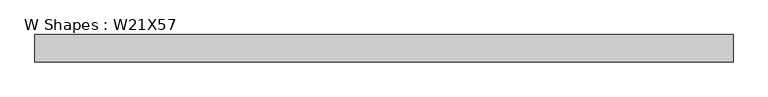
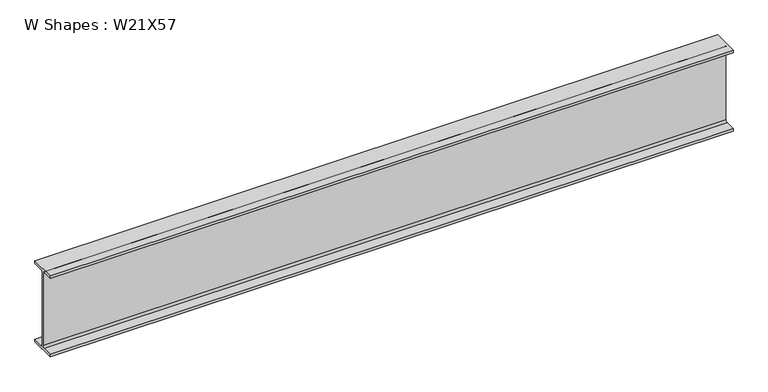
"""IFC4 building model written with IfcOpenShell, lengths in millimetres: beam geometry, W Shapes : W21X57."""

from ifc_helpers import new_model, si_unit, point, frame, frame_2d, origin, place, context, project, spatial, polyline, circle_curve, trimmed, segment, composite_curve, outline, extrude, source, transform, mapped, element, save


def w_shapes_w21x57_e7449647(model_context):
    return source(origin(), model_context, "Body", "SweptSolid", [
        extrude(outline(composite_curve([segment(polyline([(83.312, -251.46), (83.312, -267.97), (-83.312, -267.97), (-83.312, -251.46), (-17.8435, -251.46)]), True, "CONTINUOUS"), segment(trimmed(circle_curve(frame_2d((-17.8435, -238.76)), 12.7), [point((-17.8435, -251.46))], [point((-5.1435, -238.76))], True, "CARTESIAN"), True, "CONTINUOUS"), segment(polyline([(-5.1435, -238.76), (-5.1435, 238.76)]), True, "CONTINUOUS"), segment(trimmed(circle_curve(frame_2d((-17.8435, 238.76)), 12.7), [point((-5.1435, 238.76))], [point((-17.8435, 251.46))], True, "CARTESIAN"), True, "CONTINUOUS"), segment(polyline([(-17.8435, 251.46), (-83.312, 251.46), (-83.312, 267.97), (83.312, 267.97), (83.312, 251.46), (17.8435, 251.46)]), True, "CONTINUOUS"), segment(trimmed(circle_curve(frame_2d((17.8435, 238.76)), 12.7), [point((17.8435, 251.46))], [point((5.1435, 238.76))], True, "CARTESIAN"), True, "CONTINUOUS"), segment(polyline([(5.1435, 238.76), (5.1435, -238.76)]), True, "CONTINUOUS"), segment(trimmed(circle_curve(frame_2d((17.8435, -238.76)), 12.7), [point((5.1435, -238.76))], [point((17.8435, -251.46))], True, "CARTESIAN"), True, "CONTINUOUS"), segment(polyline([(17.8435, -251.46), (83.312, -251.46)]), True, "CONTINUOUS")], self_intersect=False)), frame((-2094.3901285, 0.0, 0.0), z_axis=(1.0, 0.0, 0.0), x_axis=(0.0, 1.0, 0.0)), (0.0, 0.0, 1.0), 4263.6498225),
    ])


if __name__ == "__main__":
    model = new_model("IFC4")
    model_context = context("Model", 3, world=origin())
    ifc_project = project(units=[si_unit("LENGTHUNIT", "METRE", prefix="MILLI")], contexts=[model_context])
    site = spatial("IfcSite", under=ifc_project)
    building = spatial("IfcBuilding", under=site)
    placement = place(None, origin())
    w_shapes_w21x57_shape = w_shapes_w21x57_e7449647(model_context)
    element("IfcBeam", 1, ObjectType="W Shapes : W21X57", at=placement, inside=building, context=model_context, shape_type="MappedRepresentation", body=[
        mapped(w_shapes_w21x57_shape, transform((0.0, 0.0, 0.0), x_axis=(1.0, 0.0, 0.0), y_axis=(0.0, 1.0, 0.0), z_axis=(0.0, 0.0, 1.0))),
    ])
    save(model, "model.ifc")
